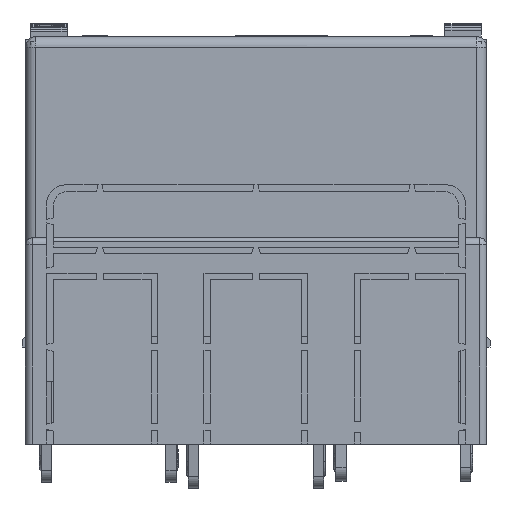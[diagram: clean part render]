
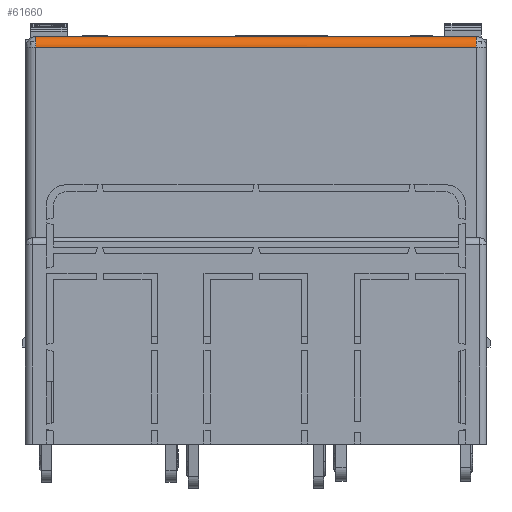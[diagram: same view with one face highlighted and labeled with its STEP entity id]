
A CAD part, left-side view. The second image highlights one B-rep face of the part: STEP entity #61660.
In plain terms, the highlighted cylindrical face has radius 3 mm (diameter 6 mm), a partial arc.
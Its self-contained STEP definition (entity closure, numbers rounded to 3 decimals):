
#885 = CARTESIAN_POINT ( 'NONE',  ( 0.25, 4., 25.5 ) ) ;
#6126 = ORIENTED_EDGE ( 'NONE', *, *, #119154, .F. ) ;
#9854 = DIRECTION ( 'NONE',  ( 0., -1., 0. ) ) ;
#14201 = DIRECTION ( 'NONE',  ( 1., 0., 0. ) ) ;
#16881 = CYLINDRICAL_SURFACE ( 'NONE', #82928, 3. ) ;
#17022 = VERTEX_POINT ( 'NONE', #78110 ) ;
#18423 = DIRECTION ( 'NONE',  ( 0., -1., 0. ) ) ;
#20130 = VERTEX_POINT ( 'NONE', #47886 ) ;
#23162 = CARTESIAN_POINT ( 'NONE',  ( 0.25, 307.379, 25.5 ) ) ;
#25448 = DIRECTION ( 'NONE',  ( 0., 1., 0. ) ) ;
#25504 = DIRECTION ( 'NONE',  ( 1., 0., 0. ) ) ;
#33579 = CIRCLE ( 'NONE', #63206, 3. ) ;
#36942 = EDGE_CURVE ( 'NONE', #20130, #119627, #138296, .T. ) ;
#37387 = VERTEX_POINT ( 'NONE', #95642 ) ;
#38094 = CARTESIAN_POINT ( 'NONE',  ( -2.75, 1., 25.5 ) ) ;
#38427 = ORIENTED_EDGE ( 'NONE', *, *, #84543, .F. ) ;
#43416 = VECTOR ( 'NONE', #49889, 1000. ) ;
#46543 = CARTESIAN_POINT ( 'NONE',  ( 0.25, 1., 28.5 ) ) ;
#47886 = CARTESIAN_POINT ( 'NONE',  ( 0.25, 4., 28.5 ) ) ;
#49889 = DIRECTION ( 'NONE',  ( 0., 1., 0. ) ) ;
#61660 = ADVANCED_FACE ( 'NONE', ( #141822 ), #16881, .T. ) ;
#63206 = AXIS2_PLACEMENT_3D ( 'NONE', #65008, #18423, #101028 ) ;
#65008 = CARTESIAN_POINT ( 'NONE',  ( 0.25, 4., 25.5 ) ) ;
#78110 = CARTESIAN_POINT ( 'NONE',  ( -2.75, 131., 25.5 ) ) ;
#82928 = AXIS2_PLACEMENT_3D ( 'NONE', #23162, #9854, #139792 ) ;
#84543 = EDGE_CURVE ( 'NONE', #101585, #20130, #138099, .T. ) ;
#86722 = ORIENTED_EDGE ( 'NONE', *, *, #36942, .F. ) ;
#93538 = ORIENTED_EDGE ( 'NONE', *, *, #143479, .F. ) ;
#95642 = CARTESIAN_POINT ( 'NONE',  ( -2.75, 4., 25.5 ) ) ;
#95828 = DIRECTION ( 'NONE',  ( 0., -1., 0. ) ) ;
#97598 = VECTOR ( 'NONE', #128770, 1000. ) ;
#99170 = EDGE_CURVE ( 'NONE', #119627, #37387, #33579, .T. ) ;
#101028 = DIRECTION ( 'NONE',  ( -0.707, 0., 0.707 ) ) ;
#101585 = VERTEX_POINT ( 'NONE', #128236 ) ;
#112425 = AXIS2_PLACEMENT_3D ( 'NONE', #144104, #25448, #14201 ) ;
#119154 = EDGE_CURVE ( 'NONE', #17022, #101585, #131533, .T. ) ;
#119627 = VERTEX_POINT ( 'NONE', #148021 ) ;
#123844 = ORIENTED_EDGE ( 'NONE', *, *, #99170, .F. ) ;
#128236 = CARTESIAN_POINT ( 'NONE',  ( 0.25, 131., 28.5 ) ) ;
#128770 = DIRECTION ( 'NONE',  ( 0., -1., 0. ) ) ;
#131533 = CIRCLE ( 'NONE', #112425, 3. ) ;
#137261 = LINE ( 'NONE', #38094, #43416 ) ;
#137669 = AXIS2_PLACEMENT_3D ( 'NONE', #885, #95828, #25504 ) ;
#138099 = LINE ( 'NONE', #46543, #97598 ) ;
#138296 = CIRCLE ( 'NONE', #137669, 3. ) ;
#139792 = DIRECTION ( 'NONE',  ( 1., 0., 0. ) ) ;
#141699 = EDGE_LOOP ( 'NONE', ( #86722, #38427, #6126, #93538, #123844 ) ) ;
#141822 = FACE_OUTER_BOUND ( 'NONE', #141699, .T. ) ;
#143479 = EDGE_CURVE ( 'NONE', #37387, #17022, #137261, .T. ) ;
#144104 = CARTESIAN_POINT ( 'NONE',  ( 0.25, 131., 25.5 ) ) ;
#148021 = CARTESIAN_POINT ( 'NONE',  ( -1.871, 4., 27.621 ) ) ;
